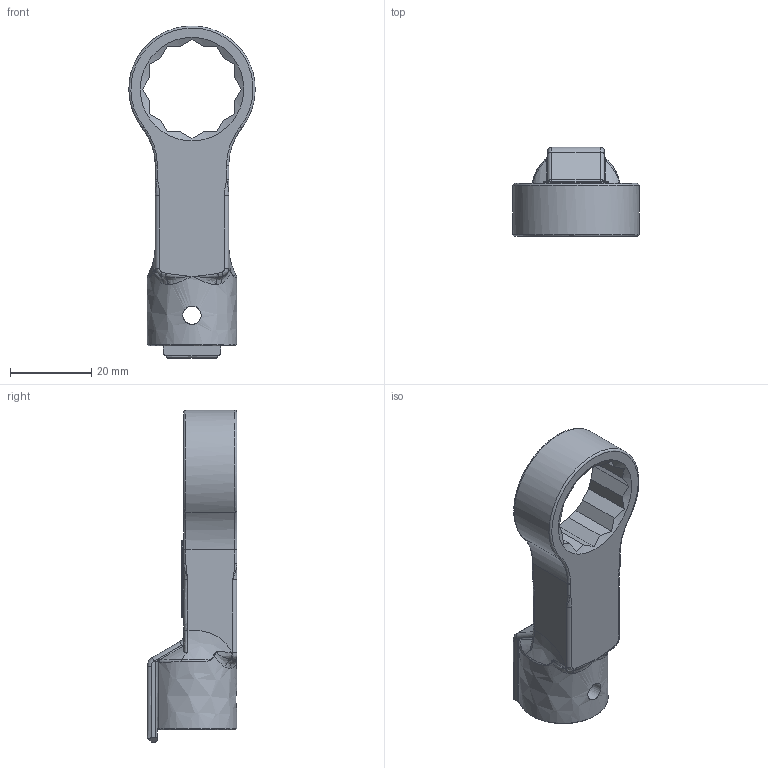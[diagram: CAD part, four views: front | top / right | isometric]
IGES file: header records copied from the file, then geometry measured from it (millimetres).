
Global section: file name: RH15DX21; native system: Autodesk Inventor 2016; preprocessor: unknown; author: Q600; date: 20151110.161501; units: millimetre
Bounding box: 31 x 22 x 81.5 mm (x, y, z)
Volume: 15759.3 mm3; surface area: 7233.3 mm2
Topology: 1 solids, 1 shells, 166 faces, 435 edges, 256 vertices
Faces by surface type: bspline 166
